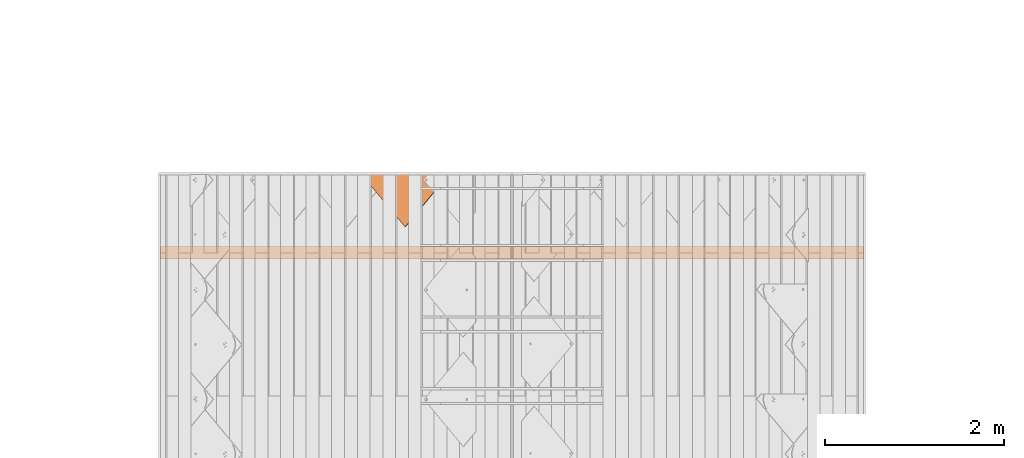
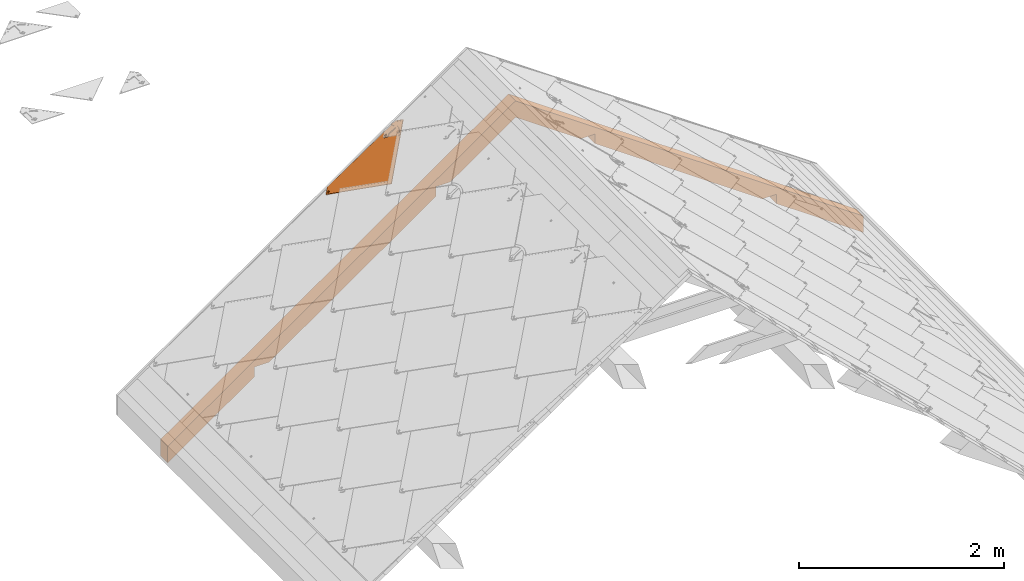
# One storey, part 92 of 151: 2 proxies, 1 element without a shape of its own.
"""IFC2X3 building model written with IfcOpenShell, lengths in millimetres."""

from ifc_helpers import new_model, entity, si_unit, converted_unit, derived_unit, direction, frame, origin, place, context, subcontext, project, spatial, polyline, outline, extrude, faceted_brep, source, transform, mapped, material, material_list, type_object, type_shapes, element, aggregate, save


model = new_model("IFC2X3")

# Units and contexts
model_context = context("Model", 3, precision=0.01, world=origin(), true_north=direction((6.12303176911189e-17, 1.0)))
body_context = subcontext(model_context, "Body", "Model", "MODEL_VIEW")
ifc_project = project(units=[si_unit("LENGTHUNIT", "METRE", prefix="MILLI"), si_unit("AREAUNIT", "SQUARE_METRE"), si_unit("VOLUMEUNIT", "CUBIC_METRE"), converted_unit("PLANEANGLEUNIT", "DEGREE", entity("IfcRatioMeasure", 0.0174532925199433), si_unit("PLANEANGLEUNIT", "RADIAN"), dimensions=[0, 0, 0, 0, 0, 0, 0]), si_unit("MASSUNIT", "GRAM", prefix="KILO"), derived_unit("MASSDENSITYUNIT", [(si_unit("MASSUNIT", "GRAM", prefix="KILO"), 1), (si_unit("LENGTHUNIT", "METRE"), -3)]), si_unit("TIMEUNIT", "SECOND"), si_unit("FREQUENCYUNIT", "HERTZ"), si_unit("THERMODYNAMICTEMPERATUREUNIT", "DEGREE_CELSIUS"), derived_unit("THERMALTRANSMITTANCEUNIT", [(si_unit("MASSUNIT", "GRAM", prefix="KILO"), 1), (si_unit("THERMODYNAMICTEMPERATUREUNIT", "KELVIN"), -1), (si_unit("TIMEUNIT", "SECOND"), -3)]), derived_unit("VOLUMETRICFLOWRATEUNIT", [(si_unit("LENGTHUNIT", "METRE"), 3), (si_unit("TIMEUNIT", "SECOND"), -1)]), si_unit("ELECTRICCURRENTUNIT", "AMPERE"), si_unit("ELECTRICVOLTAGEUNIT", "VOLT"), si_unit("POWERUNIT", "WATT"), si_unit("FORCEUNIT", "NEWTON", prefix="KILO"), si_unit("ILLUMINANCEUNIT", "LUX"), si_unit("LUMINOUSFLUXUNIT", "LUMEN"), si_unit("LUMINOUSINTENSITYUNIT", "CANDELA"), derived_unit("USERDEFINED", [(si_unit("MASSUNIT", "GRAM", prefix="KILO"), -1), (si_unit("LENGTHUNIT", "METRE"), -2), (si_unit("TIMEUNIT", "SECOND"), 3), (si_unit("LUMINOUSFLUXUNIT", "LUMEN"), 1)]), derived_unit("LINEARVELOCITYUNIT", [(si_unit("LENGTHUNIT", "METRE"), 1), (si_unit("TIMEUNIT", "SECOND"), -1)]), si_unit("PRESSUREUNIT", "PASCAL"), derived_unit("USERDEFINED", [(si_unit("LENGTHUNIT", "METRE"), -2), (si_unit("MASSUNIT", "GRAM", prefix="KILO"), 1), (si_unit("TIMEUNIT", "SECOND"), -2)])], contexts=[model_context])

# Site, building, storey
site_placement = place(None, origin())
site = spatial("IfcSite", under=ifc_project, at=site_placement, Name="Default", CompositionType="ELEMENT")
building_placement = place(site_placement, origin())
building = spatial("IfcBuilding", under=site, at=building_placement, CompositionType="ELEMENT")
storey_placement = place(building_placement, origin())
storey = spatial("IfcBuildingStorey", under=building, at=storey_placement, Name="Level 1", CompositionType="ELEMENT", Elevation=0.0)

# Assembly, proxy
assembly_placement = place(storey_placement, origin())
assembly = element("IfcElementAssembly", 1, at=assembly_placement, inside=storey, Name="Structural Framing Assembly:Roof Construction Assembly", ObjectType="Structural Framing Assembly:Roof Construction Assembly", AssemblyPlace="NOTDEFINED", PredefinedType="USERDEFINED")
ifc_material_1 = material(Name="Wood - Generic - Wood For Showcase")
building_element_proxy_type_1 = type_object("IfcBuildingElementProxyType", Name="Structural Framing 1", PredefinedType="NOTDEFINED", material=ifc_material_1)
shared_shape_1 = source(origin(), body_context, "Body", "SweptSolid", [
    extrude(outline(polyline([(-929.245683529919, -1327.10037070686), (3863.25950492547, -1327.10037070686), (3975.29271103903, -1167.10037070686), (2778.93361405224, -1167.10037070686), (2713.54351952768, -1260.48710386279), (2580.17344271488, -1167.10037070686), (278.93361405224, -1167.10037070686), (213.543519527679, -1260.48710386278), (80.1734427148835, -1167.10037070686), (-817.212477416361, -1167.10037070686), (-1124.13653843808, -323.83344356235), (-1257.50661525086, -230.446710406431), (-1192.11652072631, -137.059977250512), (-1979.18689675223, 2025.39810840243), (-2112.55697356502, 2118.78484155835), (-2047.16687904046, 2212.17157471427), (-2456.34578886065, 3336.38138996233), (-2568.37899497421, 3176.38138996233), (-929.245683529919, -1327.10037070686)])), frame((1206.77890726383, 3785.55080214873, 1179.90959070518), z_axis=(0.0, 1.0, 0.0), x_axis=(0.819152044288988, 0.0, -0.573576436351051)), (0.0, 0.0, 1.0), 140.0),
])
type_shapes(building_element_proxy_type_1, [shared_shape_1])
proxy_1_placement = place(assembly_placement, frame((57.4878711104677, -800.0, 0.0)))
proxy_1 = element("IfcBuildingElementProxy", 2, at=proxy_1_placement, type_object=building_element_proxy_type_1, material=ifc_material_1, Name="Structural Framing 2:Structural Framing 1", ObjectType="Structural Framing 2:Structural Framing 1", context=body_context, shape_type="MappedRepresentation", body=[
    mapped(shared_shape_1, transform((0.0, 0.0, 0.0), scale=1.0)),
])
aggregate(assembly, [proxy_1])

# Proxy
ifc_material_2 = material(Name="Rubber - Sunstyle - Black")
ifc_material_3 = material(Name="Glass - Sunstyle - Tainted Black")
ifc_material_list_1 = material_list([ifc_material_2, ifc_material_3])
ifc_material_list_2 = material_list([ifc_material_2, ifc_material_3])
building_element_proxy_type_2 = type_object("IfcBuildingElementProxyType", Name="Shingle Left - Black", PredefinedType="NOTDEFINED", material=ifc_material_list_2)
shared_shape_2 = source(origin(), body_context, "Body", "Brep", [
    faceted_brep([(0.0, -484.792260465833, 4.00636906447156), (-5.77420283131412, -488.125530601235, 4.06219304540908), (-5.77420283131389, -487.757221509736, 26.0540623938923), (0.0, -484.423951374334, 25.9982384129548), (-5.77420283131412, -494.792070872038, 4.17384100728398), (-5.7742028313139, -494.42376178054, 26.1657103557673), (0.0, -498.12534100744, 4.22966498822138), (0.0, -497.757031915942, 26.2215343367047), (5.77420283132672, -494.792070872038, 4.17384100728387), (5.77420283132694, -494.42376178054, 26.1657103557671), (5.77420283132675, -488.125530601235, 4.06219304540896), (5.77420283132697, -487.757221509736, 26.0540623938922), (-8.60370416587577, -499.692989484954, 26.2539568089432), (0.0, -503.256260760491, 26.3136327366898), (-12.1674751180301, -491.090491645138, 26.1098863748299), (-8.60370416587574, -482.487993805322, 25.9658159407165), (0.0, -478.924722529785, 25.9061400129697), (8.60370416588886, -482.487993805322, 25.9658159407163), (12.1674751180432, -491.090491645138, 26.1098863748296), (8.60370416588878, -499.692989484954, 26.253956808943), (-11.324244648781, -488.795414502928, 28.4227283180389), (-9.75647455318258, -491.019476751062, 30.3502110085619), (0.0, -483.706401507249, 30.9829114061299), (0.0, -482.465903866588, 30.4025647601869), (0.0, -480.308353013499, 29.3931896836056), (0.0, -502.700216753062, 27.5886907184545), (0.0, -501.756640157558, 29.7523951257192), (0.0, -498.307264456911, 31.2274395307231), (0.0, -479.437758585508, 27.1991024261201), (-6.32324569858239, -494.657048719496, 31.1663074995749), (-6.32324569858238, -487.356617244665, 31.0440434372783), (11.3242446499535, -493.306834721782, 28.498283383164), (9.84888015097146, -492.093883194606, 30.2713428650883), (6.32324569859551, -487.356617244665, 31.0440434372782), (6.32324569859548, -494.657048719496, 31.1663074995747), (-6.32324569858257, -494.523020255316, 39.1691956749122), (0.0, -498.173235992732, 39.2303277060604), (0.0, -490.8728045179, 39.1080636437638), (-6.32324569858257, -487.222588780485, 39.0469316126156), (6.32324569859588, -494.523020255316, 39.1691956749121), (6.32324569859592, -487.222588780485, 39.0469316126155), (0.0, -483.572373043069, 38.9857995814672), (0.0, -491.458800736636, 4.11801702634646)], [[[0, 1, 2, 3]], [[1, 4, 5, 2]], [[4, 6, 7, 5]], [[6, 8, 9, 7]], [[8, 10, 11, 9]], [[10, 0, 3, 11]], [[12, 7, 13]], [[7, 12, 5]], [[14, 5, 12]], [[5, 14, 2]], [[15, 2, 14]], [[3, 2, 15]], [[15, 16, 3]], [[16, 17, 3]], [[11, 3, 17]], [[11, 17, 18]], [[9, 11, 18]], [[18, 19, 9]], [[7, 9, 19]], [[19, 13, 7]], [[20, 14, 12]], [[21, 22, 23, 24]], [[24, 20, 21]], [[25, 20, 12]], [[26, 27, 21]], [[15, 14, 20]], [[12, 13, 25]], [[20, 28, 15]], [[28, 20, 24]], [[21, 27, 29]], [[21, 29, 30]], [[26, 21, 20]], [[20, 25, 26]], [[15, 28, 16]], [[21, 30, 22]], [[31, 18, 17]], [[28, 31, 17]], [[32, 27, 26]], [[26, 31, 32]], [[26, 25, 31]], [[25, 19, 31]], [[17, 16, 28]], [[31, 19, 18]], [[24, 31, 28]], [[33, 34, 32]], [[23, 22, 33]], [[24, 32, 31]], [[27, 32, 34]], [[32, 23, 33]], [[19, 25, 13]], [[32, 24, 23]], [[35, 36, 37]], [[37, 38, 35]], [[36, 39, 37]], [[40, 37, 39]], [[37, 40, 41]], [[37, 41, 38]], [[42, 6, 4]], [[4, 1, 42]], [[1, 0, 42]], [[42, 8, 6]], [[0, 10, 42]], [[8, 42, 10]], [[22, 30, 38, 41]], [[30, 29, 35, 38]], [[29, 27, 36, 35]], [[27, 34, 39, 36]], [[34, 33, 40, 39]], [[33, 22, 41, 40]]]),
    faceted_brep([(0.0, 284.339364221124, 20.2838091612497), (0.0, 288.838732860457, 20.2084559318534), (-8.60370416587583, 287.902635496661, 20.224133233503), (8.60370416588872, 287.902635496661, 20.2241332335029), (6.64022859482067, 292.671933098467, 20.1442593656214), (12.1674751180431, 296.505133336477, 20.0800627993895), (6.64022859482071, 300.338333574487, 20.0158662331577), (8.6037041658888, 305.107631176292, 19.9359923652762), (0.0, 304.171533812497, 19.9516696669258), (0.0, 308.670902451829, 19.8763164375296), (-8.60370416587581, 305.107631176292, 19.9359923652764), (-6.64022859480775, 300.338333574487, 20.0158662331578), (-12.1674751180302, 296.505133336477, 20.0800627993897), (-6.64022859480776, 292.671933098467, 20.1442593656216), (-6.64022823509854, 300.070410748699, 4.01810959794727), (0.0, 303.90361077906, 3.95391303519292), (-6.64022823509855, 292.404010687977, 4.14650272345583), (0.0, 288.570810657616, 4.21069928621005), (6.64022823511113, 292.404010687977, 4.1465027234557), (6.64022823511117, 300.070410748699, 4.01810959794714), (-8.603704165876, 287.634712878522, 4.22637659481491), (0.0, 284.071441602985, 4.28605252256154), (-12.1674751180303, 296.237210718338, 4.08230616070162), (-8.60370416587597, 304.839708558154, 3.93823572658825), (0.0, 308.402979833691, 3.87855979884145), (8.60370416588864, 304.839708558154, 3.93823572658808), (12.1674751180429, 296.237210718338, 4.08230616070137), (8.60370416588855, 287.634712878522, 4.22637659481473)], [[[0, 1, 2]], [[1, 0, 3]], [[3, 4, 1]], [[4, 3, 5]], [[6, 4, 5]], [[5, 7, 6]], [[7, 8, 6]], [[8, 7, 9]], [[8, 9, 10]], [[10, 11, 8]], [[12, 11, 10]], [[2, 13, 12]], [[12, 13, 11]], [[13, 2, 1]], [[8, 11, 14, 15]], [[11, 13, 16, 14]], [[13, 1, 17, 16]], [[1, 4, 18, 17]], [[4, 6, 19, 18]], [[6, 8, 15, 19]], [[20, 17, 21]], [[17, 20, 16]], [[22, 16, 20]], [[14, 16, 22]], [[23, 14, 22]], [[15, 14, 23]], [[23, 24, 15]], [[24, 25, 15]], [[19, 15, 25]], [[19, 25, 26]], [[26, 18, 19]], [[26, 27, 18]], [[17, 18, 27]], [[27, 21, 17]], [[24, 23, 10, 9]], [[10, 23, 22, 12]], [[20, 21, 0, 2]], [[20, 2, 12, 22]], [[21, 27, 3, 0]], [[3, 27, 26, 5]], [[25, 24, 9, 7]], [[25, 7, 5, 26]]]),
    faceted_brep([(518.309865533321, -8.21171787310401, 16.4411500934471), (526.794551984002, 0.272968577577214, 16.299052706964), (526.794551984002, 0.298086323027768, 17.798842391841), (518.309865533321, -8.18660012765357, 17.9409397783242), (0.0, 509.952813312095, 7.76318349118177), (-51.6190674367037, 458.348219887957, 8.62743202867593), (-60.1037538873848, 466.832906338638, 8.48533464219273), (0.0, 526.919807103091, 7.47902856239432), (0.0, 526.944924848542, 8.97881824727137), (-60.1037538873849, 466.858024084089, 9.98512432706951), (-51.6190674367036, 458.373337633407, 10.1272217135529), (0.0, 509.977931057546, 9.26297317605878)], [[[0, 1, 2, 3]], [[1, 0, 4, 5, 6, 7]], [[2, 1, 7, 8]], [[3, 2, 8, 9, 10, 11]], [[0, 3, 11, 4]], [[5, 10, 9, 6]], [[8, 7, 6, 9]], [[4, 11, 10, 5]]]),
    faceted_brep([(3.08877637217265, 308.328619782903, 11.1398870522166), (0.0, 526.91980710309, 7.47902856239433), (-60.1037538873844, 466.832906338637, 8.48533464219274), (5.98294783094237, 307.129982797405, 11.1599612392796), (-0.0170521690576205, 308.737452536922, 11.133040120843), (8.46822920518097, 305.223226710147, 11.1918946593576), (10.3752526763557, 302.738293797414, 11.2335111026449), (11.5740577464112, 299.844528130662, 11.2819744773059), (526.794551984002, 0.272968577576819, 16.299052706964), (11.9829478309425, 296.739135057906, 11.3339820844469), (11.5740577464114, 293.63374198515, 11.3859896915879), (10.3752526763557, 290.739976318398, 11.4344530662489), (8.46822920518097, 288.255043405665, 11.4760695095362), (5.9829478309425, 286.348287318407, 11.5080029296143), (3.08877637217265, 285.149650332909, 11.5280771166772), (2.03352718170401, -483.329519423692, 24.3981910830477), (-60.1037538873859, -466.286969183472, 24.112770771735), (-0.0170521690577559, 284.74081757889, 11.5349240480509), (-3.12288071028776, 285.149650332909, 11.5280771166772), (-6.01705216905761, 286.348287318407, 11.5080029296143), (-8.50233354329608, 288.255043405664, 11.4760695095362), (-10.409357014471, 290.739976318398, 11.4344530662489), (-11.6081620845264, 293.63374198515, 11.3859896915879), (-12.0170521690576, 296.739135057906, 11.3339820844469), (-11.6081620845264, 299.844528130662, 11.2819744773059), (-10.4093570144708, 302.738293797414, 11.2335111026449), (-8.50233354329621, 305.223226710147, 11.1918946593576), (-6.01705216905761, 307.129982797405, 11.1599612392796), (-3.12288071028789, 308.328619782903, 11.1398870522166), (-0.0370251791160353, -483.056964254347, 24.3936264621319), (-2.10757753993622, -483.329519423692, 24.3981910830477), (-4.03702517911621, -484.128610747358, 24.411573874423), (-5.69387942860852, -485.399781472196, 24.4328628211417), (-6.96522840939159, -487.056403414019, 24.4606071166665), (-7.76443178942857, -488.985580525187, 24.4929160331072), (-8.03702517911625, -491.055842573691, 24.5275877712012), (-7.76443178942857, -493.126104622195, 24.5622595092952), (-6.96522840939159, -495.055281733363, 24.5945684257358), (0.0, -526.373869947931, 25.1190768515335), (-5.69387942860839, -496.711903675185, 24.6223127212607), (-4.03702517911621, -497.983074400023, 24.6436016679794), (-2.10757753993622, -498.782165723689, 24.6569844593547), (-0.0370251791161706, -499.054720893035, 24.6615490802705), (2.03352718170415, -498.782165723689, 24.6569844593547), (3.96297482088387, -497.983074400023, 24.6436016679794), (5.61982907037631, -496.711903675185, 24.6223127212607), (6.89117805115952, -495.055281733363, 24.5945684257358), (7.6903814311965, -493.126104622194, 24.5622595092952), (3.96297482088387, -484.128610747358, 24.411573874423), (5.61982907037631, -485.399781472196, 24.4328628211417), (6.89117805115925, -487.056403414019, 24.4606071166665), (7.6903814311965, -488.985580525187, 24.4929160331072), (7.96297482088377, -491.055842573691, 24.5275877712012), (-60.1037538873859, -466.412557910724, 16.6138223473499), (-6.96522840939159, -487.181992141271, 16.9616586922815), (-7.7644317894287, -489.111169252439, 16.9939676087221), (-5.69387942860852, -485.525370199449, 16.9339143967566), (-8.03702517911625, -491.181431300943, 17.0286393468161), (-7.76443178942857, -493.251693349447, 17.0633110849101), (-6.96522840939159, -495.180870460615, 17.0956200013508), (0.0, -526.499458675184, 17.6201284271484), (-4.03702517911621, -484.254199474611, 16.9126254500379), (-2.10757753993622, -483.455108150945, 16.8992426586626), (-0.0370251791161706, -483.182552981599, 16.8946780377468), (2.03352718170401, -483.455108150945, 16.8992426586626), (3.08877637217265, 285.024061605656, 4.02912869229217), (-0.0170521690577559, 284.615228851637, 4.03597562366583), (-3.12288071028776, 285.024061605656, 4.02912869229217), (-6.01705216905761, 286.222698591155, 4.00905450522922), (-8.50233354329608, 288.129454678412, 3.97712108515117), (-10.409357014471, 290.614387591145, 3.93550464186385), (-11.6081620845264, 293.508153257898, 3.88704126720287), (-60.1037538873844, 466.707317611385, 0.986386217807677), (-12.0170521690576, 296.613546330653, 3.83503366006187), (-11.6081620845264, 299.718939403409, 3.78302605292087), (-10.4093570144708, 302.612705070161, 3.73456267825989), (-8.50233354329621, 305.097637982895, 3.69294623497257), (-6.01705216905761, 307.004394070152, 3.66101281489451), (-3.12288071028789, 308.203031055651, 3.64093862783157), (-0.0170521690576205, 308.61186380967, 3.63409169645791), (3.08877637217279, 308.203031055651, 3.64093862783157), (0.0, 526.794218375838, -0.0199198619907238), (5.98294783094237, 307.004394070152, 3.66101281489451), (8.46822920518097, 305.097637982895, 3.69294623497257), (10.3752526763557, 302.612705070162, 3.73456267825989), (11.5740577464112, 299.718939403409, 3.78302605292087), (526.794551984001, 0.147379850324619, 8.8001042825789), (3.96297482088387, -484.254199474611, 16.9126254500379), (5.61982907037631, -485.525370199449, 16.9339143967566), (7.6903814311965, -493.251693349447, 17.0633110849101), (7.96297482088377, -491.181431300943, 17.0286393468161), (7.6903814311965, -489.111169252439, 16.9939676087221), (6.89117805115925, -487.181992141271, 16.9616586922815), (5.9829478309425, 286.222698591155, 4.00905450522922), (8.46822920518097, 288.129454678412, 3.97712108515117), (11.9829478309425, 296.613546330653, 3.83503366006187), (11.5740577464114, 293.508153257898, 3.88704126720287), (10.3752526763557, 290.614387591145, 3.93550464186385), (-5.69387942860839, -496.837492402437, 17.1233642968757), (-4.03702517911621, -498.108663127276, 17.1446532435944), (-2.10757753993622, -498.907754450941, 17.1580360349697), (-0.0370251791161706, -499.180309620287, 17.1626006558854), (2.03352718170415, -498.907754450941, 17.1580360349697), (3.96297482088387, -498.108663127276, 17.1446532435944), (5.61982907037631, -496.837492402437, 17.1233642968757), (6.89117805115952, -495.180870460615, 17.0956200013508)], [[[0, 1, 2]], [[0, 3, 1]], [[4, 0, 2]], [[1, 3, 5]], [[6, 1, 5]], [[7, 1, 6]], [[7, 8, 1]], [[9, 8, 7]], [[8, 9, 10]], [[8, 10, 11]], [[11, 12, 8]], [[12, 13, 8]], [[13, 14, 8]], [[14, 15, 8]], [[14, 16, 15]], [[16, 14, 17]], [[16, 17, 18]], [[16, 18, 19]], [[20, 16, 19]], [[20, 21, 16]], [[21, 22, 16]], [[23, 2, 22]], [[2, 16, 22]], [[23, 24, 2]], [[25, 2, 24]], [[25, 26, 2]], [[26, 27, 2]], [[28, 2, 27]], [[4, 2, 28]], [[16, 29, 15]], [[29, 16, 30]], [[30, 16, 31]], [[16, 32, 31]], [[32, 16, 33]], [[33, 16, 34]], [[35, 34, 16]], [[35, 16, 36]], [[37, 36, 16]], [[16, 38, 37]], [[39, 37, 38]], [[40, 39, 38]], [[41, 40, 38]], [[38, 42, 41]], [[42, 38, 43]], [[44, 43, 38]], [[44, 38, 45]], [[46, 45, 38]], [[47, 46, 38]], [[47, 38, 8]], [[48, 8, 15]], [[48, 49, 8]], [[50, 8, 49]], [[51, 8, 50]], [[52, 47, 8]], [[52, 8, 51]], [[53, 54, 55]], [[54, 53, 56]], [[53, 55, 57]], [[57, 58, 53]], [[58, 59, 53]], [[53, 59, 60]], [[61, 56, 53]], [[62, 61, 53]], [[62, 53, 63]], [[64, 63, 53]], [[53, 65, 64]], [[65, 53, 66]], [[66, 53, 67]], [[67, 53, 68]], [[69, 68, 53]], [[70, 69, 53]], [[71, 70, 53]], [[71, 53, 72]], [[73, 71, 72]], [[74, 73, 72]], [[75, 74, 72]], [[76, 75, 72]], [[72, 77, 76]], [[78, 77, 72]], [[79, 78, 72]], [[79, 72, 80]], [[80, 72, 81]], [[82, 80, 81]], [[81, 83, 82]], [[83, 81, 84]], [[84, 81, 85]], [[86, 85, 81]], [[64, 86, 87]], [[88, 87, 86]], [[60, 89, 86]], [[90, 86, 89]], [[90, 91, 86]], [[91, 92, 86]], [[88, 86, 92]], [[65, 86, 64]], [[65, 93, 86]], [[93, 94, 86]], [[86, 95, 85]], [[95, 86, 96]], [[97, 96, 86]], [[97, 86, 94]], [[98, 60, 59]], [[98, 99, 60]], [[99, 100, 60]], [[101, 60, 100]], [[60, 101, 102]], [[60, 102, 103]], [[103, 104, 60]], [[104, 105, 60]], [[105, 89, 60]], [[2, 1, 81, 72]], [[38, 16, 53, 60]], [[8, 38, 60, 86]], [[1, 8, 86, 81]], [[35, 57, 55, 34]], [[34, 55, 54, 33]], [[31, 32, 56, 61]], [[56, 32, 33, 54]], [[30, 31, 61, 62]], [[30, 62, 63, 29]], [[29, 63, 64, 15]], [[15, 64, 87, 48]], [[50, 49, 88, 92]], [[88, 49, 48, 87]], [[51, 50, 92, 91]], [[51, 91, 90, 52]], [[52, 90, 89, 47]], [[47, 89, 105, 46]], [[44, 45, 104, 103]], [[104, 45, 46, 105]], [[43, 44, 103, 102]], [[43, 102, 101, 42]], [[42, 101, 100, 41]], [[41, 100, 99, 40]], [[37, 39, 98, 59]], [[98, 39, 40, 99]], [[36, 37, 59, 58]], [[36, 58, 57, 35]], [[23, 73, 74, 24]], [[24, 74, 75, 25]], [[27, 26, 76, 77]], [[76, 26, 25, 75]], [[28, 27, 77, 78]], [[28, 78, 79, 4]], [[4, 79, 80, 0]], [[0, 80, 82, 3]], [[6, 5, 83, 84]], [[83, 5, 3, 82]], [[7, 6, 84, 85]], [[7, 85, 95, 9]], [[9, 95, 96, 10]], [[10, 96, 97, 11]], [[13, 12, 94, 93]], [[94, 12, 11, 97]], [[14, 13, 93, 65]], [[14, 65, 66, 17]], [[17, 66, 67, 18]], [[18, 67, 68, 19]], [[21, 20, 69, 70]], [[69, 20, 19, 68]], [[22, 21, 70, 71]], [[22, 71, 73, 23]], [[16, 2, 72, 53]]]),
    faceted_brep([(-60.2957264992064, 433.002673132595, 19.0533091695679), (-60.2957264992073, 406.276440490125, 19.5009070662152), (-37.4519584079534, 414.732964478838, 19.3592813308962), (-27.2461400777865, 442.315205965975, 18.8973474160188), (-13.4919726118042, 419.124350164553, 19.2857365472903), (7.02526451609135, 444.434715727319, 18.8618509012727), (13.1080273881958, 419.12435016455, 19.2857365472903), (13.1080273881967, 322.716549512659, 20.9003273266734), (-13.4919726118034, 322.716549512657, 20.9003273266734), (-0.191972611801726, 308.510747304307, 21.1382391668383), (-3.29780115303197, 308.101914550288, 21.145086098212), (-6.19197261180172, 306.90327756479, 21.1651602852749), (-18.8960787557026, 319.178501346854, 20.9595808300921), (-8.67725398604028, 304.996521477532, 21.197093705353), (-23.3966230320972, 314.545495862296, 21.0371721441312), (-10.584277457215, 302.511588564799, 21.2387101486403), (-26.776192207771, 309.041345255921, 21.1293529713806), (-11.7830825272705, 299.617822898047, 21.2871735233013), (-28.8715253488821, 302.931945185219, 21.231670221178), (-12.1919726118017, 296.512429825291, 21.3391811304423), (-29.5814006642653, 296.512429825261, 21.3391811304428), (-11.7830825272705, 293.407036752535, 21.3911887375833), (-10.5842774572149, 290.513271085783, 21.4396521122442), (-8.67725398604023, 288.028338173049, 21.4812685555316), (-0.191972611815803, 267.127122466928, 21.8313119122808), (-6.19197261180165, 286.121582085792, 21.5132019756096), (-3.2978011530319, 284.922945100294, 21.5332761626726), (-0.19197261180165, 284.514112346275, 21.5401230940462), (2.9138559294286, 284.922945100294, 21.5332761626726), (5.80802738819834, 286.121582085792, 21.5132019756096), (8.29330876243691, 288.028338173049, 21.4812685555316), (29.197455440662, 296.512429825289, 21.3391811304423), (10.2003322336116, 290.513271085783, 21.4396521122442), (11.3991373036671, 293.407036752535, 21.3911887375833), (11.8080273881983, 296.512429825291, 21.3391811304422), (28.4875801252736, 302.931945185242, 21.2316702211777), (11.3991373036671, 299.617822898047, 21.2871735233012), (26.3922469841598, 309.041345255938, 21.1293529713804), (10.2003322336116, 302.511588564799, 21.2387101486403), (23.0126778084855, 314.545495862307, 21.037172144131), (8.29330876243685, 304.996521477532, 21.197093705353), (18.5121335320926, 319.178501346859, 20.959580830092), (5.80802738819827, 306.90327756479, 21.1651602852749), (2.91385592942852, 308.101914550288, 21.145086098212), (40.9707248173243, 439.265481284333, 18.9484227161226), (38.5777701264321, 414.309469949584, 19.3663738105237), (73.0571986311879, 427.0409551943, 19.1531531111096), (62.7323605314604, 404.905836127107, 19.523861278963), (84.7524233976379, 391.232440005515, 19.7528566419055), (101.835599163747, 408.313220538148, 19.4667960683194), (-10.5842774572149, 290.345819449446, 11.4410542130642), (-29.5814006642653, 296.344978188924, 11.3405832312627), (-11.7830825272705, 293.239585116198, 11.3925908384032), (-8.67725398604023, 287.860886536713, 11.4826706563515), (-0.191972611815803, 266.959670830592, 11.8327140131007), (-6.19197261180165, 285.954130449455, 11.5146040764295), (-3.2978011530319, 284.755493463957, 11.5346782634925), (-0.19197261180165, 284.346660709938, 11.5415251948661), (2.9138559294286, 284.755493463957, 11.5346782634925), (5.80802738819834, 285.954130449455, 11.5146040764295), (8.29330876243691, 287.860886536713, 11.4826706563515), (29.197455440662, 296.344978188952, 11.3405832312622), (10.2003322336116, 290.345819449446, 11.4410542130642), (11.3991373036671, 293.239585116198, 11.3925908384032), (11.8080273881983, 296.344978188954, 11.3405832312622), (28.4875801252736, 302.764493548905, 11.2330723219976), (11.3991373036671, 299.45037126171, 11.2885756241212), (26.3922469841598, 308.873893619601, 11.1307550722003), (10.2003322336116, 302.344136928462, 11.2401122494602), (23.0126778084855, 314.378044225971, 11.038574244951), (8.29330876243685, 304.829069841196, 11.1984958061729), (18.5121335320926, 319.011049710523, 10.960982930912), (5.80802738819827, 306.735825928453, 11.1665623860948), (13.1080273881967, 322.549097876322, 10.9017294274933), (2.91385592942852, 307.934462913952, 11.1464881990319), (-0.191972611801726, 308.34329566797, 11.1396412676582), (-13.4919726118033, 322.54909787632, 10.9017294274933), (-3.29780115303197, 307.934462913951, 11.1464881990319), (-6.19197261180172, 306.735825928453, 11.1665623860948), (-18.8960787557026, 319.011049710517, 10.9609829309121), (-8.67725398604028, 304.829069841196, 11.1984958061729), (-23.3966230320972, 314.37804422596, 11.0385742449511), (-10.584277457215, 302.344136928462, 11.2401122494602), (-26.776192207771, 308.873893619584, 11.1307550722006), (-11.7830825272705, 299.45037126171, 11.2885756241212), (-28.8715253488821, 302.764493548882, 11.233072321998), (-12.1919726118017, 296.344978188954, 11.3405832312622), (-13.4919726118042, 418.956898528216, 9.28713864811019), (13.1080273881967, 418.956898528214, 9.28713864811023), (7.02526451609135, 444.267264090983, 8.86325300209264), (-27.2461400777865, 442.147754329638, 8.89874951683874), (-37.4519584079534, 414.565512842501, 9.36068343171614), (-60.2957264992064, 432.835221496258, 9.05471127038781), (-60.2957264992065, 406.108988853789, 9.5023091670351), (40.9707248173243, 439.098029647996, 8.94982481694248), (38.5777701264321, 414.142018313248, 9.36777591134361), (73.0571986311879, 426.873503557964, 9.15455521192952), (62.7323605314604, 404.738384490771, 9.5252633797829), (84.9699227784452, 391.282457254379, 9.75061668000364), (101.363550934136, 407.672574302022, 9.47612300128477), (101.835599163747, 408.145768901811, 9.46819816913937), (107.666988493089, 402.274283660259, 9.56653093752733), (113.684870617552, 396.559480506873, 9.66223967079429), (108.027097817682, 368.228515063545, 10.1367128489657), (125.024248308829, 385.223282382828, 9.85209278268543), (84.7524233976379, 391.064988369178, 9.75425874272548), (125.024248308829, 385.265145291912, 12.3517422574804), (113.684870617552, 396.601343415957, 12.1618891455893), (107.666988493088, 402.316146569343, 12.0661804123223), (101.362944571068, 407.715043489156, 11.975762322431), (84.9693798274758, 391.324863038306, 12.2502570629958), (108.027097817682, 368.270377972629, 12.6363623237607)], [[[0, 1, 2]], [[0, 2, 3]], [[2, 4, 3]], [[3, 4, 5]], [[5, 4, 6]], [[7, 6, 4]], [[7, 4, 8]], [[9, 7, 8]], [[9, 8, 10]], [[10, 8, 11]], [[12, 11, 8]], [[11, 12, 13]], [[14, 13, 12]], [[13, 14, 15]], [[15, 14, 16]], [[17, 15, 16]], [[18, 17, 16]], [[18, 19, 17]], [[19, 18, 20]], [[20, 21, 19]], [[20, 22, 21]], [[22, 20, 23]], [[23, 20, 24]], [[24, 25, 23]], [[26, 25, 24]], [[24, 27, 26]], [[28, 27, 24]], [[28, 24, 29]], [[30, 29, 24]], [[30, 24, 31]], [[31, 32, 30]], [[33, 32, 31]], [[31, 34, 33]], [[35, 34, 31]], [[34, 35, 36]], [[36, 35, 37]], [[36, 37, 38]], [[38, 37, 39]], [[39, 40, 38]], [[39, 41, 40]], [[7, 42, 41]], [[40, 41, 42]], [[42, 7, 43]], [[43, 7, 9]], [[44, 5, 6]], [[44, 6, 45]], [[45, 46, 44]], [[46, 45, 47]], [[47, 48, 46]], [[49, 46, 48]], [[50, 51, 52]], [[51, 50, 53]], [[54, 51, 53]], [[53, 55, 54]], [[56, 54, 55]], [[57, 54, 56]], [[57, 58, 54]], [[58, 59, 54]], [[60, 54, 59]], [[60, 61, 54]], [[60, 62, 61]], [[62, 63, 61]], [[63, 64, 61]], [[64, 65, 61]], [[65, 64, 66]], [[66, 67, 65]], [[68, 67, 66]], [[67, 68, 69]], [[69, 68, 70]], [[71, 69, 70]], [[71, 70, 72]], [[72, 73, 71]], [[72, 74, 73]], [[75, 73, 74]], [[76, 73, 75]], [[77, 76, 75]], [[76, 77, 78]], [[79, 76, 78]], [[78, 80, 79]], [[81, 79, 80]], [[81, 80, 82]], [[81, 82, 83]], [[82, 84, 83]], [[84, 85, 83]], [[86, 85, 84]], [[52, 51, 86]], [[85, 86, 51]], [[73, 76, 87]], [[88, 73, 87]], [[88, 87, 89]], [[90, 89, 87]], [[87, 91, 90]], [[91, 92, 90]], [[93, 92, 91]], [[88, 89, 94]], [[88, 94, 95]], [[96, 95, 94]], [[96, 97, 95]], [[98, 97, 96]], [[96, 99, 98]], [[96, 100, 99]], [[98, 99, 101]], [[102, 98, 101]], [[98, 102, 103]], [[104, 103, 102]], [[105, 97, 98]], [[8, 4, 87, 76]], [[12, 8, 76, 79]], [[14, 12, 79, 81]], [[81, 83, 16, 14]], [[18, 16, 83, 85]], [[20, 18, 85, 51]], [[24, 20, 51, 54]], [[31, 24, 54, 61]], [[35, 31, 61, 65]], [[37, 35, 65, 67]], [[67, 69, 39, 37]], [[41, 39, 69, 71]], [[7, 41, 71, 73]], [[6, 7, 73, 88]], [[46, 49, 100, 96]], [[44, 46, 96, 94]], [[94, 89, 5, 44]], [[3, 5, 89, 90]], [[3, 90, 92, 0]], [[19, 86, 84, 17]], [[17, 84, 82, 15]], [[11, 13, 80, 78]], [[82, 80, 13, 15]], [[10, 11, 78, 77]], [[75, 9, 10, 77]], [[43, 74, 72, 42]], [[42, 72, 70, 40]], [[36, 38, 68, 66]], [[70, 68, 38, 40]], [[34, 36, 66, 64]], [[43, 9, 75, 74]], [[34, 64, 63, 33]], [[33, 63, 62, 32]], [[29, 30, 60, 59]], [[62, 60, 30, 32]], [[28, 29, 59, 58]], [[57, 27, 28, 58]], [[26, 56, 55, 25]], [[25, 55, 53, 23]], [[21, 22, 50, 52]], [[53, 50, 22, 23]], [[19, 21, 52, 86]], [[26, 27, 57, 56]], [[106, 107, 108, 109, 110, 111]], [[107, 106, 104, 102]], [[106, 111, 103, 104]], [[107, 102, 101, 108]], [[101, 99, 109]], [[101, 109, 108]], [[111, 110, 98, 103]], [[48, 110, 109]], [[110, 48, 105]], [[49, 48, 109, 100]], [[105, 98, 110]], [[99, 100, 109]], [[93, 91, 2, 1]], [[87, 4, 2, 91]], [[88, 95, 45, 6]], [[95, 97, 47, 45]], [[97, 105, 48, 47]], [[1, 0, 92, 93]]]),
])
type_shapes(building_element_proxy_type_2, [shared_shape_2])
proxy_2_placement = place(storey_placement, frame((79.0376099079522, 3870.21613090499, 2000.61296645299), z_axis=(-0.57357643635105, 0.0, 0.819152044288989), x_axis=(0.0, -1.0, 0.0)))
element("IfcBuildingElementProxy", 3, at=proxy_2_placement, inside=storey, type_object=building_element_proxy_type_2, material=ifc_material_list_1, Name="Roofing_Panels_SunStyle_Tile_Shingle-Left:Shingle Left - Black", ObjectType="Roofing_Panels_SunStyle_Tile_Shingle-Left:Shingle Left - Black", context=body_context, shape_type="MappedRepresentation", body=[
    mapped(shared_shape_2, transform((0.0, 0.0, 0.0), scale=1.0)),
])

save(model, "model.ifc")
